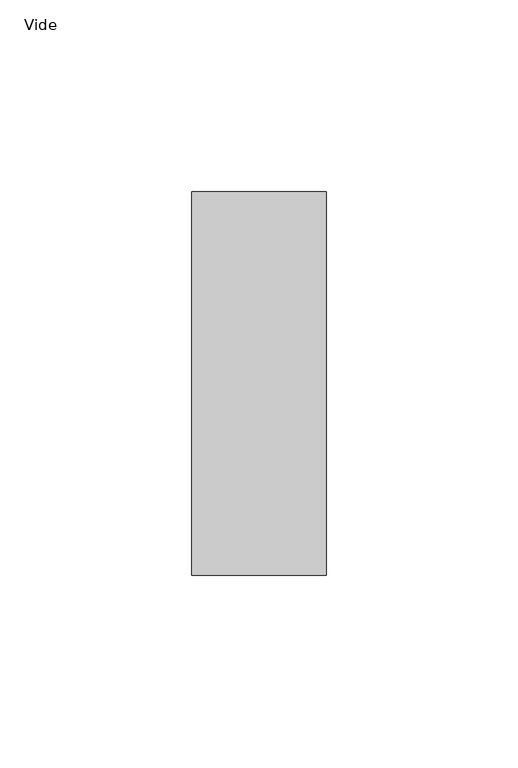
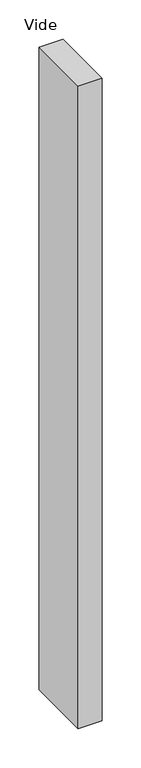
"""IFC4 building model written with IfcOpenShell, lengths in millimetres: plate geometry, Panneau système vide : Vide."""

from ifc_helpers import new_model, si_unit, origin, origin_with_axes, place, context, project, spatial, polyline, outline, extrude, source, transform, mapped, element, save


def vide_1ad6f549(model_context):
    return source(origin(), model_context, "Body", "SweptSolid", [
        extrude(outline(polyline([(17.4999998, 50.0), (-17.4999998, 50.0), (-17.4999998, 150.0), (17.4999998, 150.0), (17.4999998, 50.0)])), origin_with_axes(), (0.0, 0.0, 1.0), 1000.0),
    ])


if __name__ == "__main__":
    model = new_model("IFC4")
    model_context = context("Model", 3, world=origin())
    ifc_project = project(units=[si_unit("LENGTHUNIT", "METRE", prefix="MILLI")], contexts=[model_context])
    site = spatial("IfcSite", under=ifc_project)
    building = spatial("IfcBuilding", under=site)
    placement = place(None, origin())
    vide_shape = vide_1ad6f549(model_context)
    element("IfcPlate", 1, ObjectType="Panneau système vide : Vide", at=placement, inside=building, context=model_context, shape_type="MappedRepresentation", body=[
        mapped(vide_shape, transform((0.0, 0.0, 0.0), x_axis=(1.0, 0.0, 0.0), y_axis=(0.0, 1.0, 0.0), z_axis=(0.0, 0.0, 1.0))),
    ])
    save(model, "model.ifc")
